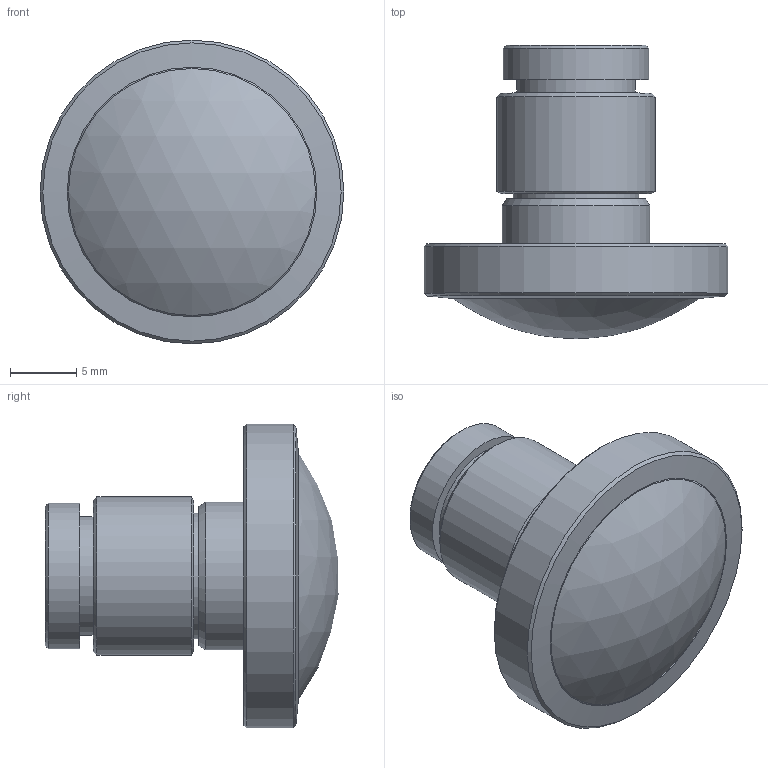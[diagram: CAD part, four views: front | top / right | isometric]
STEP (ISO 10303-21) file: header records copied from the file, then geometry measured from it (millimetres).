
FILE_DESCRIPTION(/* description */ ('Unknown'),/* implementation_level */ '2;1');
FILE_NAME(/* name */ 'E1628KRY_210401',/* time_stamp */ '2021-04-01T10:44:37+09:00',/* author */ ('Unknown'),/* organization */ ('Unknown'),/* preprocessor_version */ 'ST-DEVELOPER v16.7',/* originating_system */ 'DEX',/* authorisation */ $);
FILE_SCHEMA (('AUTOMOTIVE_DESIGN {1 0 10303 214 3 1 1}'));
Length unit declared in the file: millimetre
Products named in the file (1): E1628KRY_210401
Bounding box: 23 x 22.19 x 23 mm (x, y, z)
Volume: 3655.9 mm3; surface area: 1832.5 mm2
Topology: 1 solids, 1 shells, 31 faces, 58 edges, 36 vertices
Faces by surface type: cone 14, cylinder 8, plane 7, sphere 2
Full cylindrical faces by diameter (mm): 5.6 x1, 9 x1, 9.5 x1, 11 x1, 11.2 x1, 12 x1, 18.9 x1, 23 x1
Entity records: 855 total; most frequent: DIRECTION 124, CARTESIAN_POINT 92, AXIS2_PLACEMENT_3D 62, ORIENTED_EDGE 60, EDGE_LOOP 60, FACE_BOUND 60, STYLED_ITEM 31, PRESENTATION_STYLE_ASSIGNMENT 31
